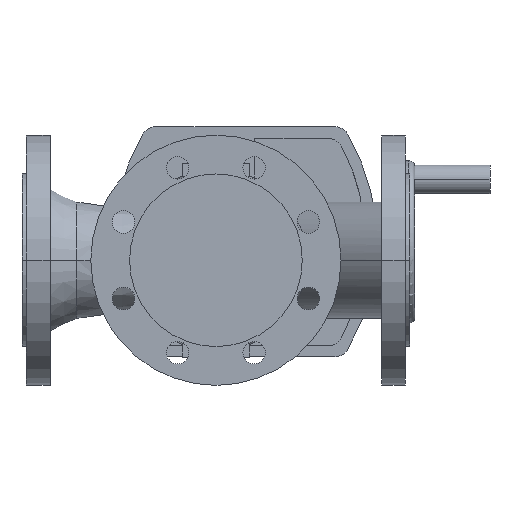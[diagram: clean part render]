
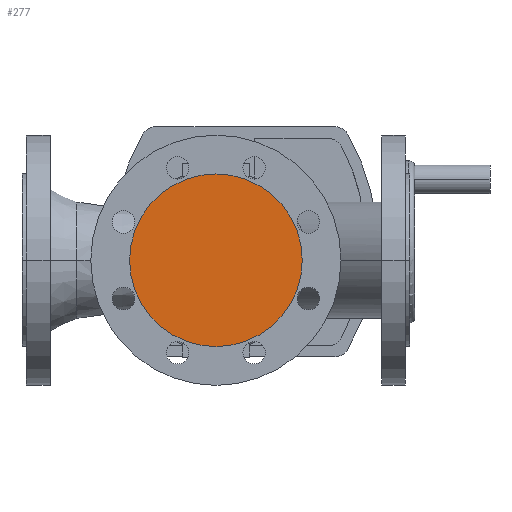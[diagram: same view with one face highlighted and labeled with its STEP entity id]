
A CAD part, front view. The second image highlights one B-rep face of the part: STEP entity #277.
In plain terms, the highlighted planar face has unit normal (0, -1, 0).
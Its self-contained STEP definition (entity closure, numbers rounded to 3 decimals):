
#277 = ADVANCED_FACE( '', ( #762 ), #763, .T. );
#762 = FACE_OUTER_BOUND( '', #1388, .T. );
#763 = PLANE( '', #1389 );
#1388 = EDGE_LOOP( '', ( #2887, #2888 ) );
#1389 = AXIS2_PLACEMENT_3D( '', #2889, #2890, #2891 );
#2887 = ORIENTED_EDGE( '', *, *, #3919, .F. );
#2888 = ORIENTED_EDGE( '', *, *, #4304, .F. );
#2889 = CARTESIAN_POINT( '', ( 189.5, -130., 0. ) );
#2890 = DIRECTION( '', ( 0., -1., 0. ) );
#2891 = DIRECTION( '', ( -1., 0., 0. ) );
#3919 = EDGE_CURVE( '', #4650, #4653, #4654, .T. );
#4304 = EDGE_CURVE( '', #4653, #4650, #5287, .T. );
#4650 = VERTEX_POINT( '', #5887 );
#4653 = VERTEX_POINT( '', #5891 );
#4654 = CIRCLE( '', #5892, 69. );
#5287 = CIRCLE( '', #7082, 69. );
#5887 = CARTESIAN_POINT( '', ( 224., -130., 0. ) );
#5891 = CARTESIAN_POINT( '', ( 86., -130., 0. ) );
#5892 = AXIS2_PLACEMENT_3D( '', #7786, #7787, #7788 );
#7082 = AXIS2_PLACEMENT_3D( '', #8553, #8554, #8555 );
#7786 = CARTESIAN_POINT( '', ( 155., -130., 0. ) );
#7787 = DIRECTION( '', ( 0., 1., 0. ) );
#7788 = DIRECTION( '', ( 1., 0., 0. ) );
#8553 = CARTESIAN_POINT( '', ( 155., -130., 0. ) );
#8554 = DIRECTION( '', ( 0., 1., 0. ) );
#8555 = DIRECTION( '', ( 1., 0., 0. ) );
